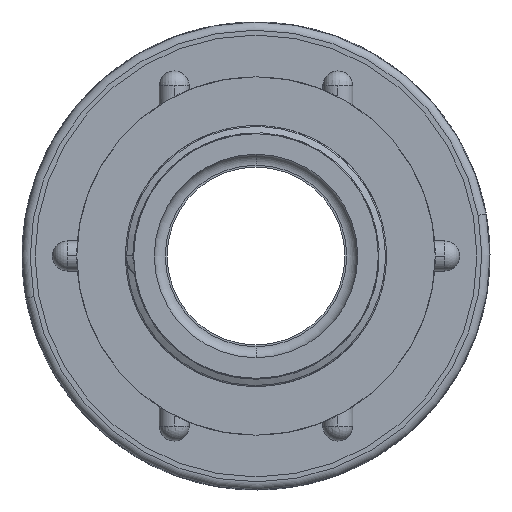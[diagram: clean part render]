
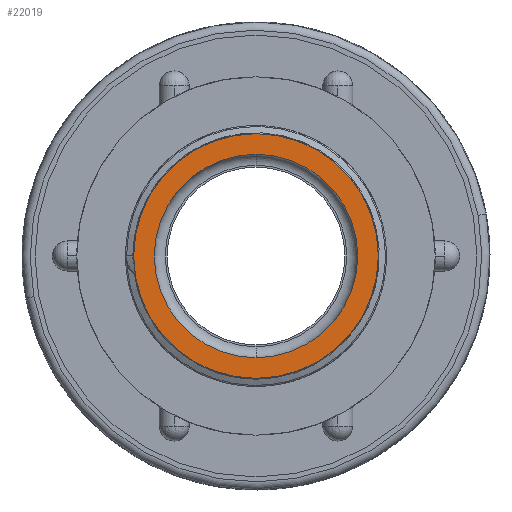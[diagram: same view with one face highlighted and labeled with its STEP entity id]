
A CAD part, left-side view. The second image highlights one B-rep face of the part: STEP entity #22019.
In plain terms, the highlighted planar face has unit normal (-1, 0, 0).
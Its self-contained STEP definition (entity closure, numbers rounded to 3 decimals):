
#296 = EDGE_CURVE ( 'NONE', #4840, #4839, #3229, .T. ) ;
#1518 = ORIENTED_EDGE ( 'NONE', *, *, #296, .F. ) ;
#1519 = ORIENTED_EDGE ( 'NONE', *, *, #4431, .F. ) ;
#1520 = ORIENTED_EDGE ( 'NONE', *, *, #22085, .T. ) ;
#1521 = ORIENTED_EDGE ( 'NONE', *, *, #22170, .T. ) ;
#3229 = CIRCLE ( 'NONE', #3234, 18.65 ) ;
#3234 = AXIS2_PLACEMENT_3D ( 'NONE', #5965, #5966, #5967 ) ;
#4431 = EDGE_CURVE ( 'NONE', #4839, #4840, #14022, .T. ) ;
#4839 = VERTEX_POINT ( 'NONE', #21764 ) ;
#4840 = VERTEX_POINT ( 'NONE', #21765 ) ;
#4986 = VERTEX_POINT ( 'NONE', #22339 ) ;
#4987 = VERTEX_POINT ( 'NONE', #22340 ) ;
#5965 = CARTESIAN_POINT ( 'NONE',  ( 0., 0., 0. ) ) ;
#5966 = DIRECTION ( 'NONE',  ( -1., 0., 0. ) ) ;
#5967 = DIRECTION ( 'NONE',  ( 0., 0., 1. ) ) ;
#14022 = CIRCLE ( 'NONE', #14026, 18.65 ) ;
#14026 = AXIS2_PLACEMENT_3D ( 'NONE', #19942, #19943, #19944 ) ;
#14472 = AXIS2_PLACEMENT_3D ( 'NONE', #23073, #23081, #23082 ) ;
#14505 = CIRCLE ( 'NONE', #14508, 22.422 ) ;
#14508 = AXIS2_PLACEMENT_3D ( 'NONE', #23705, #23706, #23707 ) ;
#14553 = CIRCLE ( 'NONE', #14555, 22.422 ) ;
#14555 = AXIS2_PLACEMENT_3D ( 'NONE', #24355, #24356, #24357 ) ;
#18533 = EDGE_LOOP ( 'NONE', ( #1520, #1521 ) ) ;
#18547 = EDGE_LOOP ( 'NONE', ( #1518, #1519 ) ) ;
#19942 = CARTESIAN_POINT ( 'NONE',  ( 0., 0., 0. ) ) ;
#19943 = DIRECTION ( 'NONE',  ( -1., 0., 0. ) ) ;
#19944 = DIRECTION ( 'NONE',  ( 0., 0., 1. ) ) ;
#21764 = CARTESIAN_POINT ( 'NONE',  ( 0., 0., -18.65 ) ) ;
#21765 = CARTESIAN_POINT ( 'NONE',  ( 0., 0., 18.65 ) ) ;
#22019 = ADVANCED_FACE ( 'NONE', ( #23077, #23078 ), #23079, .F. ) ;
#22085 = EDGE_CURVE ( 'NONE', #4986, #4987, #14505, .T. ) ;
#22170 = EDGE_CURVE ( 'NONE', #4987, #4986, #14553, .T. ) ;
#22339 = CARTESIAN_POINT ( 'NONE',  ( 0., 0., 22.422 ) ) ;
#22340 = CARTESIAN_POINT ( 'NONE',  ( 0., 0., -22.422 ) ) ;
#23073 = CARTESIAN_POINT ( 'NONE',  ( 0., 18.65, 0. ) ) ;
#23077 = FACE_BOUND ( 'NONE', #18547, .T. ) ;
#23078 = FACE_OUTER_BOUND ( 'NONE', #18533, .T. ) ;
#23079 = PLANE ( 'NONE',  #14472 ) ;
#23081 = DIRECTION ( 'NONE',  ( 1., 0., 0. ) ) ;
#23082 = DIRECTION ( 'NONE',  ( 0., 0., -1. ) ) ;
#23705 = CARTESIAN_POINT ( 'NONE',  ( 0., 0., 0. ) ) ;
#23706 = DIRECTION ( 'NONE',  ( -1., 0., 0. ) ) ;
#23707 = DIRECTION ( 'NONE',  ( 0., 0., 1. ) ) ;
#24355 = CARTESIAN_POINT ( 'NONE',  ( 0., 0., 0. ) ) ;
#24356 = DIRECTION ( 'NONE',  ( -1., 0., 0. ) ) ;
#24357 = DIRECTION ( 'NONE',  ( 0., 0., 1. ) ) ;
